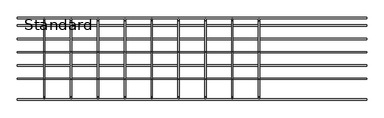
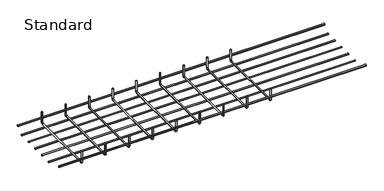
"""IFC4 building model written with IfcOpenShell, lengths in millimetres: cable carrier fitting geometry, CableTray_Atkore-Straight-Length : Standard."""

from ifc_helpers import new_model, si_unit, point, frame, frame_2d, origin, place, context, project, spatial, circle_curve, ellipse_curve, trimmed, segment, composite_curve, outline, extrude, source, transform, mapped, element, save
from ifc_brep_helpers import plane_surface, cylinder_surface, revolved_surface, advanced_brep


def standard_1d8058ac(model_context):
    return source(origin(), model_context, "Body", "SolidModel", [
        extrude(outline(composite_curve([segment(trimmed(circle_curve(frame_2d((73.4025, -25.9357812)), 2.54), [point((70.8625, -25.9357812))], [point((75.9425, -25.9357812))], False, "CARTESIAN"), True, "CONTINUOUS"), segment(trimmed(circle_curve(frame_2d((73.4025, -25.9357812)), 2.54), [point((75.9425, -25.9357812))], [point((70.8625, -25.9357812))], False, "CARTESIAN"), True, "CONTINUOUS")], self_intersect=False)), frame((0.0, 0.0, 0.0), z_axis=(1.0, 0.0, 0.0), x_axis=(0.0, 1.0, 0.0)), (0.0, 0.0, 1.0), 1285.8012927),
        extrude(outline(composite_curve([segment(trimmed(circle_curve(frame_2d((24.4675, -25.9357812)), 2.54), [point((21.9275, -25.9357812))], [point((27.0075, -25.9357812))], False, "CARTESIAN"), True, "CONTINUOUS"), segment(trimmed(circle_curve(frame_2d((24.4675, -25.9357812)), 2.54), [point((27.0075, -25.9357812))], [point((21.9275, -25.9357812))], False, "CARTESIAN"), True, "CONTINUOUS")], self_intersect=False)), frame((0.0, 0.0, 0.0), z_axis=(1.0, 0.0, 0.0), x_axis=(0.0, 1.0, 0.0)), (0.0, 0.0, 1.0), 1285.8012927),
        extrude(outline(composite_curve([segment(trimmed(circle_curve(frame_2d((-24.4675, -25.9357812)), 2.54), [point((-27.0075, -25.9357812))], [point((-21.9275, -25.9357812))], False, "CARTESIAN"), True, "CONTINUOUS"), segment(trimmed(circle_curve(frame_2d((-24.4675, -25.9357812)), 2.54), [point((-21.9275, -25.9357812))], [point((-27.0075, -25.9357812))], False, "CARTESIAN"), True, "CONTINUOUS")], self_intersect=False)), frame((0.0, 0.0, 0.0), z_axis=(1.0, 0.0, 0.0), x_axis=(0.0, 1.0, 0.0)), (0.0, 0.0, 1.0), 1285.8012927),
        extrude(outline(composite_curve([segment(trimmed(circle_curve(frame_2d((-73.4025, -25.9357812)), 2.54), [point((-75.9425, -25.9357812))], [point((-70.8625, -25.9357812))], False, "CARTESIAN"), True, "CONTINUOUS"), segment(trimmed(circle_curve(frame_2d((-73.4025, -25.9357812)), 2.54), [point((-70.8625, -25.9357812))], [point((-75.9425, -25.9357812))], False, "CARTESIAN"), True, "CONTINUOUS")], self_intersect=False)), frame((0.0, 0.0, 0.0), z_axis=(1.0, 0.0, 0.0), x_axis=(0.0, 1.0, 0.0)), (0.0, 0.0, 1.0), 1285.8012927),
        advanced_brep(
        [(96.3677917, -144.88, 28.4757813), (101.4477917, -144.88, 28.4757813), (96.3677917, -144.88, -14.8133594), (101.4477917, -144.88, -14.8133594), (101.4477917, -138.8375781, -20.8557812), (96.3677917, -138.8375781, -20.8557812), (96.3677917, 138.53, -20.8557812), (101.4477917, 138.53, -20.8557812), (101.4477917, 144.88, -14.5057812), (96.3677917, 144.88, -14.5057812), (96.3677917, 144.88, 28.4757813), (101.4477917, 144.88, 28.4757813)],
        [
            (0, 1, circle_curve(frame((98.9077917, -144.88, 28.4757813), z_axis=(0.0, 0.0, 1.0), x_axis=(1.0, 0.0, 0.0)), 2.54)),
            (1, 0, circle_curve(frame((98.9077917, -144.88, 28.4757813), z_axis=(0.0, 0.0, 1.0), x_axis=(1.0, 0.0, 0.0)), 2.54)),
            (0, 2),
            (2, 3, circle_curve(frame((98.9077917, -144.88, -14.8133594), z_axis=(0.0, 0.0, 1.0), x_axis=(1.0, 0.0, 0.0)), 2.54)),
            (3, 1),
            (3, 2, circle_curve(frame((98.9077917, -144.88, -14.8133594), z_axis=(0.0, 0.0, 1.0), x_axis=(1.0, 0.0, 0.0)), 2.54)),
            (4, 3, circle_curve(frame((101.4477917, -138.8375781, -14.8133594), z_axis=(-1.0, 0.0, 0.0), x_axis=(0.0, -1.0, 0.0)), 6.0424219)),
            (2, 5, circle_curve(frame((96.3677917, -138.8375781, -14.8133594), z_axis=(1.0, 0.0, 0.0), x_axis=(0.0, -1.0, 0.0)), 6.0424219)),
            (5, 4, circle_curve(frame((98.9077917, -138.8375781, -20.8557812), z_axis=(0.0, -1.0, 0.0), x_axis=(1.0, 0.0, 0.0)), 2.54)),
            (4, 5, circle_curve(frame((98.9077917, -138.8375781, -20.8557812), z_axis=(0.0, -1.0, 0.0), x_axis=(1.0, 0.0, 0.0)), 2.54)),
            (5, 6),
            (6, 7, circle_curve(frame((98.9077917, 138.53, -20.8557812), z_axis=(0.0, -1.0, 0.0), x_axis=(1.0, 0.0, 0.0)), 2.54)),
            (7, 4),
            (7, 6, circle_curve(frame((98.9077917, 138.53, -20.8557812), z_axis=(0.0, -1.0, 0.0), x_axis=(1.0, 0.0, 0.0)), 2.54)),
            (8, 7, circle_curve(frame((101.4477917, 138.53, -14.5057812), z_axis=(-1.0, 0.0, 0.0), x_axis=(0.0, 0.0, -1.0)), 6.35)),
            (6, 9, circle_curve(frame((96.3677917, 138.53, -14.5057812), z_axis=(1.0, 0.0, 0.0), x_axis=(0.0, 0.0, -1.0)), 6.35)),
            (9, 8, circle_curve(frame((98.9077917, 144.88, -14.5057812), z_axis=(0.0, 0.0, -1.0), x_axis=(1.0, 0.0, 0.0)), 2.54)),
            (8, 9, circle_curve(frame((98.9077917, 144.88, -14.5057812), z_axis=(0.0, 0.0, -1.0), x_axis=(1.0, 0.0, 0.0)), 2.54)),
            (10, 11, circle_curve(frame((98.9077917, 144.88, 28.4757813), z_axis=(0.0, 0.0, 1.0), x_axis=(1.0, 0.0, 0.0)), 2.54)),
            (11, 10, circle_curve(frame((98.9077917, 144.88, 28.4757813), z_axis=(0.0, 0.0, 1.0), x_axis=(1.0, 0.0, 0.0)), 2.54)),
            (9, 10),
            (11, 8),
        ],
        [
            plane_surface(frame((98.9077917, -144.88, 28.4757813), z_axis=(0.0, 0.0, 1.0), x_axis=(1.0, 0.0, 0.0))),
            cylinder_surface(frame((98.9077917, -144.88, 28.4757813), z_axis=(0.0, 0.0, 1.0), x_axis=(1.0, 0.0, 0.0)), 2.54),
            revolved_surface(trimmed(ellipse_curve(frame((98.9077917, -144.88, -14.8133594), z_axis=(0.0, 0.0, 1.0), x_axis=(1.0, 0.0, 0.0)), 2.54, 2.54), [point((96.3677917, -144.88, -14.8133594))], [point((101.4477917, -144.88, -14.8133594))], True, "CARTESIAN"), (98.9077917, -138.8375781, -14.8133594), (1.0, 0.0, 0.0)),
            revolved_surface(trimmed(ellipse_curve(frame((98.9077917, -144.88, -14.8133594), z_axis=(0.0, 0.0, 1.0), x_axis=(1.0, 0.0, 0.0)), 2.54, 2.54), [point((101.4477917, -144.88, -14.8133594))], [point((96.3677917, -144.88, -14.8133594))], True, "CARTESIAN"), (98.9077917, -138.8375781, -14.8133594), (1.0, 0.0, 0.0)),
            cylinder_surface(frame((98.9077917, -138.8375781, -20.8557812), z_axis=(0.0, -1.0, 0.0), x_axis=(1.0, 0.0, 0.0)), 2.54),
            revolved_surface(trimmed(ellipse_curve(frame((98.9077917, 138.53, -20.8557812), z_axis=(0.0, -1.0, 0.0), x_axis=(1.0, 0.0, 0.0)), 2.54, 2.54), [point((96.3677917, 138.53, -20.8557812))], [point((101.4477917, 138.53, -20.8557812))], True, "CARTESIAN"), (98.9077917, 138.53, -14.5057812), (1.0, 0.0, 0.0)),
            revolved_surface(trimmed(ellipse_curve(frame((98.9077917, 138.53, -20.8557812), z_axis=(0.0, -1.0, 0.0), x_axis=(1.0, 0.0, 0.0)), 2.54, 2.54), [point((101.4477917, 138.53, -20.8557812))], [point((96.3677917, 138.53, -20.8557812))], True, "CARTESIAN"), (98.9077917, 138.53, -14.5057812), (1.0, 0.0, 0.0)),
            plane_surface(frame((98.9077917, 144.88, 28.4757813), z_axis=(0.0, 0.0, 1.0), x_axis=(1.0, 0.0, 0.0))),
            cylinder_surface(frame((98.9077917, 144.88, -14.5057812), z_axis=(0.0, 0.0, -1.0), x_axis=(1.0, 0.0, 0.0)), 2.54),
        ],
        [
            (0, [[1, 2]]),
            (1, [[-1, 3, 4, 5]]),
            (1, [[-2, -5, 6, -3]]),
            (2, [[7, -4, 8, 9]]),
            (3, [[-8, -6, -7, 10]]),
            (4, [[-9, 11, 12, 13]]),
            (4, [[-10, -13, 14, -11]]),
            (5, [[15, -12, 16, 17]]),
            (6, [[-16, -14, -15, 18]]),
            (7, [[19, 20]]),
            (8, [[-17, 21, -20, 22]]),
            (8, [[-18, -22, -19, -21]]),
        ],
    ),
        advanced_brep(
        [(195.2755835, -144.88, 28.4757813), (200.3555835, -144.88, 28.4757813), (195.2755835, -144.88, -14.8133594), (200.3555835, -144.88, -14.8133594), (200.3555835, -138.8375781, -20.8557812), (195.2755835, -138.8375781, -20.8557812), (195.2755835, 138.53, -20.8557812), (200.3555835, 138.53, -20.8557812), (200.3555835, 144.88, -14.5057812), (195.2755835, 144.88, -14.5057812), (195.2755835, 144.88, 28.4757813), (200.3555835, 144.88, 28.4757813)],
        [
            (0, 1, circle_curve(frame((197.8155835, -144.88, 28.4757813), z_axis=(0.0, 0.0, 1.0), x_axis=(1.0, 0.0, 0.0)), 2.54)),
            (1, 0, circle_curve(frame((197.8155835, -144.88, 28.4757813), z_axis=(0.0, 0.0, 1.0), x_axis=(1.0, 0.0, 0.0)), 2.54)),
            (0, 2),
            (2, 3, circle_curve(frame((197.8155835, -144.88, -14.8133594), z_axis=(0.0, 0.0, 1.0), x_axis=(1.0, 0.0, 0.0)), 2.54)),
            (3, 1),
            (3, 2, circle_curve(frame((197.8155835, -144.88, -14.8133594), z_axis=(0.0, 0.0, 1.0), x_axis=(1.0, 0.0, 0.0)), 2.54)),
            (4, 3, circle_curve(frame((200.3555835, -138.8375781, -14.8133594), z_axis=(-1.0, 0.0, 0.0), x_axis=(0.0, -1.0, 0.0)), 6.0424219)),
            (2, 5, circle_curve(frame((195.2755835, -138.8375781, -14.8133594), z_axis=(1.0, 0.0, 0.0), x_axis=(0.0, -1.0, 0.0)), 6.0424219)),
            (5, 4, circle_curve(frame((197.8155835, -138.8375781, -20.8557812), z_axis=(0.0, -1.0, 0.0), x_axis=(1.0, 0.0, 0.0)), 2.54)),
            (4, 5, circle_curve(frame((197.8155835, -138.8375781, -20.8557812), z_axis=(0.0, -1.0, 0.0), x_axis=(1.0, 0.0, 0.0)), 2.54)),
            (5, 6),
            (6, 7, circle_curve(frame((197.8155835, 138.53, -20.8557812), z_axis=(0.0, -1.0, 0.0), x_axis=(1.0, 0.0, 0.0)), 2.54)),
            (7, 4),
            (7, 6, circle_curve(frame((197.8155835, 138.53, -20.8557812), z_axis=(0.0, -1.0, 0.0), x_axis=(1.0, 0.0, 0.0)), 2.54)),
            (8, 7, circle_curve(frame((200.3555835, 138.53, -14.5057812), z_axis=(-1.0, 0.0, 0.0), x_axis=(0.0, 0.0, -1.0)), 6.35)),
            (6, 9, circle_curve(frame((195.2755835, 138.53, -14.5057812), z_axis=(1.0, 0.0, 0.0), x_axis=(0.0, 0.0, -1.0)), 6.35)),
            (9, 8, circle_curve(frame((197.8155835, 144.88, -14.5057812), z_axis=(0.0, 0.0, -1.0), x_axis=(1.0, 0.0, 0.0)), 2.54)),
            (8, 9, circle_curve(frame((197.8155835, 144.88, -14.5057812), z_axis=(0.0, 0.0, -1.0), x_axis=(1.0, 0.0, 0.0)), 2.54)),
            (10, 11, circle_curve(frame((197.8155835, 144.88, 28.4757813), z_axis=(0.0, 0.0, 1.0), x_axis=(1.0, 0.0, 0.0)), 2.54)),
            (11, 10, circle_curve(frame((197.8155835, 144.88, 28.4757813), z_axis=(0.0, 0.0, 1.0), x_axis=(1.0, 0.0, 0.0)), 2.54)),
            (9, 10),
            (11, 8),
        ],
        [
            plane_surface(frame((197.8155835, -144.88, 28.4757813), z_axis=(0.0, 0.0, 1.0), x_axis=(1.0, 0.0, 0.0))),
            cylinder_surface(frame((197.8155835, -144.88, 28.4757813), z_axis=(0.0, 0.0, 1.0), x_axis=(1.0, 0.0, 0.0)), 2.54),
            revolved_surface(trimmed(ellipse_curve(frame((197.8155835, -144.88, -14.8133594), z_axis=(0.0, 0.0, 1.0), x_axis=(1.0, 0.0, 0.0)), 2.54, 2.54), [point((195.2755835, -144.88, -14.8133594))], [point((200.3555835, -144.88, -14.8133594))], True, "CARTESIAN"), (197.8155835, -138.8375781, -14.8133594), (1.0, 0.0, 0.0)),
            revolved_surface(trimmed(ellipse_curve(frame((197.8155835, -144.88, -14.8133594), z_axis=(0.0, 0.0, 1.0), x_axis=(1.0, 0.0, 0.0)), 2.54, 2.54), [point((200.3555835, -144.88, -14.8133594))], [point((195.2755835, -144.88, -14.8133594))], True, "CARTESIAN"), (197.8155835, -138.8375781, -14.8133594), (1.0, 0.0, 0.0)),
            cylinder_surface(frame((197.8155835, -138.8375781, -20.8557812), z_axis=(0.0, -1.0, 0.0), x_axis=(1.0, 0.0, 0.0)), 2.54),
            revolved_surface(trimmed(ellipse_curve(frame((197.8155835, 138.53, -20.8557812), z_axis=(0.0, -1.0, 0.0), x_axis=(1.0, 0.0, 0.0)), 2.54, 2.54), [point((195.2755835, 138.53, -20.8557812))], [point((200.3555835, 138.53, -20.8557812))], True, "CARTESIAN"), (197.8155835, 138.53, -14.5057812), (1.0, 0.0, 0.0)),
            revolved_surface(trimmed(ellipse_curve(frame((197.8155835, 138.53, -20.8557812), z_axis=(0.0, -1.0, 0.0), x_axis=(1.0, 0.0, 0.0)), 2.54, 2.54), [point((200.3555835, 138.53, -20.8557812))], [point((195.2755835, 138.53, -20.8557812))], True, "CARTESIAN"), (197.8155835, 138.53, -14.5057812), (1.0, 0.0, 0.0)),
            plane_surface(frame((197.8155835, 144.88, 28.4757813), z_axis=(0.0, 0.0, 1.0), x_axis=(1.0, 0.0, 0.0))),
            cylinder_surface(frame((197.8155835, 144.88, -14.5057812), z_axis=(0.0, 0.0, -1.0), x_axis=(1.0, 0.0, 0.0)), 2.54),
        ],
        [
            (0, [[1, 2]]),
            (1, [[-1, 3, 4, 5]]),
            (1, [[-2, -5, 6, -3]]),
            (2, [[7, -4, 8, 9]]),
            (3, [[-8, -6, -7, 10]]),
            (4, [[-9, 11, 12, 13]]),
            (4, [[-10, -13, 14, -11]]),
            (5, [[15, -12, 16, 17]]),
            (6, [[-16, -14, -15, 18]]),
            (7, [[19, 20]]),
            (8, [[-17, 21, -20, 22]]),
            (8, [[-18, -22, -19, -21]]),
        ],
    ),
        advanced_brep(
        [(294.1833752, -144.88, 28.4757813), (299.2633752, -144.88, 28.4757813), (294.1833752, -144.88, -14.8133594), (299.2633752, -144.88, -14.8133594), (299.2633752, -138.8375781, -20.8557812), (294.1833752, -138.8375781, -20.8557812), (294.1833752, 138.53, -20.8557812), (299.2633752, 138.53, -20.8557812), (299.2633752, 144.88, -14.5057812), (294.1833752, 144.88, -14.5057812), (294.1833752, 144.88, 28.4757813), (299.2633752, 144.88, 28.4757813)],
        [
            (0, 1, circle_curve(frame((296.7233752, -144.88, 28.4757813), z_axis=(0.0, 0.0, 1.0), x_axis=(1.0, 0.0, 0.0)), 2.54)),
            (1, 0, circle_curve(frame((296.7233752, -144.88, 28.4757813), z_axis=(0.0, 0.0, 1.0), x_axis=(1.0, 0.0, 0.0)), 2.54)),
            (0, 2),
            (2, 3, circle_curve(frame((296.7233752, -144.88, -14.8133594), z_axis=(0.0, 0.0, 1.0), x_axis=(1.0, 0.0, 0.0)), 2.54)),
            (3, 1),
            (3, 2, circle_curve(frame((296.7233752, -144.88, -14.8133594), z_axis=(0.0, 0.0, 1.0), x_axis=(1.0, 0.0, 0.0)), 2.54)),
            (4, 3, circle_curve(frame((299.2633752, -138.8375781, -14.8133594), z_axis=(-1.0, 0.0, 0.0), x_axis=(0.0, -1.0, 0.0)), 6.0424219)),
            (2, 5, circle_curve(frame((294.1833752, -138.8375781, -14.8133594), z_axis=(1.0, 0.0, 0.0), x_axis=(0.0, -1.0, 0.0)), 6.0424219)),
            (5, 4, circle_curve(frame((296.7233752, -138.8375781, -20.8557812), z_axis=(0.0, -1.0, 0.0), x_axis=(1.0, 0.0, 0.0)), 2.54)),
            (4, 5, circle_curve(frame((296.7233752, -138.8375781, -20.8557812), z_axis=(0.0, -1.0, 0.0), x_axis=(1.0, 0.0, 0.0)), 2.54)),
            (5, 6),
            (6, 7, circle_curve(frame((296.7233752, 138.53, -20.8557812), z_axis=(0.0, -1.0, 0.0), x_axis=(1.0, 0.0, 0.0)), 2.54)),
            (7, 4),
            (7, 6, circle_curve(frame((296.7233752, 138.53, -20.8557812), z_axis=(0.0, -1.0, 0.0), x_axis=(1.0, 0.0, 0.0)), 2.54)),
            (8, 7, circle_curve(frame((299.2633752, 138.53, -14.5057812), z_axis=(-1.0, 0.0, 0.0), x_axis=(0.0, 0.0, -1.0)), 6.35)),
            (6, 9, circle_curve(frame((294.1833752, 138.53, -14.5057812), z_axis=(1.0, 0.0, 0.0), x_axis=(0.0, 0.0, -1.0)), 6.35)),
            (9, 8, circle_curve(frame((296.7233752, 144.88, -14.5057812), z_axis=(0.0, 0.0, -1.0), x_axis=(1.0, 0.0, 0.0)), 2.54)),
            (8, 9, circle_curve(frame((296.7233752, 144.88, -14.5057812), z_axis=(0.0, 0.0, -1.0), x_axis=(1.0, 0.0, 0.0)), 2.54)),
            (10, 11, circle_curve(frame((296.7233752, 144.88, 28.4757813), z_axis=(0.0, 0.0, 1.0), x_axis=(1.0, 0.0, 0.0)), 2.54)),
            (11, 10, circle_curve(frame((296.7233752, 144.88, 28.4757813), z_axis=(0.0, 0.0, 1.0), x_axis=(1.0, 0.0, 0.0)), 2.54)),
            (9, 10),
            (11, 8),
        ],
        [
            plane_surface(frame((296.7233752, -144.88, 28.4757813), z_axis=(0.0, 0.0, 1.0), x_axis=(1.0, 0.0, 0.0))),
            cylinder_surface(frame((296.7233752, -144.88, 28.4757813), z_axis=(0.0, 0.0, 1.0), x_axis=(1.0, 0.0, 0.0)), 2.54),
            revolved_surface(trimmed(ellipse_curve(frame((296.7233752, -144.88, -14.8133594), z_axis=(0.0, 0.0, 1.0), x_axis=(1.0, 0.0, 0.0)), 2.54, 2.54), [point((294.1833752, -144.88, -14.8133594))], [point((299.2633752, -144.88, -14.8133594))], True, "CARTESIAN"), (296.7233752, -138.8375781, -14.8133594), (1.0, 0.0, 0.0)),
            revolved_surface(trimmed(ellipse_curve(frame((296.7233752, -144.88, -14.8133594), z_axis=(0.0, 0.0, 1.0), x_axis=(1.0, 0.0, 0.0)), 2.54, 2.54), [point((299.2633752, -144.88, -14.8133594))], [point((294.1833752, -144.88, -14.8133594))], True, "CARTESIAN"), (296.7233752, -138.8375781, -14.8133594), (1.0, 0.0, 0.0)),
            cylinder_surface(frame((296.7233752, -138.8375781, -20.8557812), z_axis=(0.0, -1.0, 0.0), x_axis=(1.0, 0.0, 0.0)), 2.54),
            revolved_surface(trimmed(ellipse_curve(frame((296.7233752, 138.53, -20.8557812), z_axis=(0.0, -1.0, 0.0), x_axis=(1.0, 0.0, 0.0)), 2.54, 2.54), [point((294.1833752, 138.53, -20.8557812))], [point((299.2633752, 138.53, -20.8557812))], True, "CARTESIAN"), (296.7233752, 138.53, -14.5057812), (1.0, 0.0, 0.0)),
            revolved_surface(trimmed(ellipse_curve(frame((296.7233752, 138.53, -20.8557812), z_axis=(0.0, -1.0, 0.0), x_axis=(1.0, 0.0, 0.0)), 2.54, 2.54), [point((299.2633752, 138.53, -20.8557812))], [point((294.1833752, 138.53, -20.8557812))], True, "CARTESIAN"), (296.7233752, 138.53, -14.5057812), (1.0, 0.0, 0.0)),
            plane_surface(frame((296.7233752, 144.88, 28.4757813), z_axis=(0.0, 0.0, 1.0), x_axis=(1.0, 0.0, 0.0))),
            cylinder_surface(frame((296.7233752, 144.88, -14.5057812), z_axis=(0.0, 0.0, -1.0), x_axis=(1.0, 0.0, 0.0)), 2.54),
        ],
        [
            (0, [[1, 2]]),
            (1, [[-1, 3, 4, 5]]),
            (1, [[-2, -5, 6, -3]]),
            (2, [[7, -4, 8, 9]]),
            (3, [[-8, -6, -7, 10]]),
            (4, [[-9, 11, 12, 13]]),
            (4, [[-10, -13, 14, -11]]),
            (5, [[15, -12, 16, 17]]),
            (6, [[-16, -14, -15, 18]]),
            (7, [[19, 20]]),
            (8, [[-17, 21, -20, 22]]),
            (8, [[-18, -22, -19, -21]]),
        ],
    ),
        advanced_brep(
        [(393.091167, -144.88, 28.4757813), (398.171167, -144.88, 28.4757813), (393.091167, -144.88, -14.8133594), (398.171167, -144.88, -14.8133594), (398.171167, -138.8375781, -20.8557812), (393.091167, -138.8375781, -20.8557812), (393.091167, 138.53, -20.8557812), (398.171167, 138.53, -20.8557812), (398.171167, 144.88, -14.5057812), (393.091167, 144.88, -14.5057812), (393.091167, 144.88, 28.4757813), (398.171167, 144.88, 28.4757813)],
        [
            (0, 1, circle_curve(frame((395.631167, -144.88, 28.4757813), z_axis=(0.0, 0.0, 1.0), x_axis=(1.0, 0.0, 0.0)), 2.54)),
            (1, 0, circle_curve(frame((395.631167, -144.88, 28.4757813), z_axis=(0.0, 0.0, 1.0), x_axis=(1.0, 0.0, 0.0)), 2.54)),
            (0, 2),
            (2, 3, circle_curve(frame((395.631167, -144.88, -14.8133594), z_axis=(0.0, 0.0, 1.0), x_axis=(1.0, 0.0, 0.0)), 2.54)),
            (3, 1),
            (3, 2, circle_curve(frame((395.631167, -144.88, -14.8133594), z_axis=(0.0, 0.0, 1.0), x_axis=(1.0, 0.0, 0.0)), 2.54)),
            (4, 3, circle_curve(frame((398.171167, -138.8375781, -14.8133594), z_axis=(-1.0, 0.0, 0.0), x_axis=(0.0, -1.0, 0.0)), 6.0424219)),
            (2, 5, circle_curve(frame((393.091167, -138.8375781, -14.8133594), z_axis=(1.0, 0.0, 0.0), x_axis=(0.0, -1.0, 0.0)), 6.0424219)),
            (5, 4, circle_curve(frame((395.631167, -138.8375781, -20.8557812), z_axis=(0.0, -1.0, 0.0), x_axis=(1.0, 0.0, 0.0)), 2.54)),
            (4, 5, circle_curve(frame((395.631167, -138.8375781, -20.8557812), z_axis=(0.0, -1.0, 0.0), x_axis=(1.0, 0.0, 0.0)), 2.54)),
            (5, 6),
            (6, 7, circle_curve(frame((395.631167, 138.53, -20.8557812), z_axis=(0.0, -1.0, 0.0), x_axis=(1.0, 0.0, 0.0)), 2.54)),
            (7, 4),
            (7, 6, circle_curve(frame((395.631167, 138.53, -20.8557812), z_axis=(0.0, -1.0, 0.0), x_axis=(1.0, 0.0, 0.0)), 2.54)),
            (8, 7, circle_curve(frame((398.171167, 138.53, -14.5057812), z_axis=(-1.0, 0.0, 0.0), x_axis=(0.0, 0.0, -1.0)), 6.35)),
            (6, 9, circle_curve(frame((393.091167, 138.53, -14.5057812), z_axis=(1.0, 0.0, 0.0), x_axis=(0.0, 0.0, -1.0)), 6.35)),
            (9, 8, circle_curve(frame((395.631167, 144.88, -14.5057812), z_axis=(0.0, 0.0, -1.0), x_axis=(1.0, 0.0, 0.0)), 2.54)),
            (8, 9, circle_curve(frame((395.631167, 144.88, -14.5057812), z_axis=(0.0, 0.0, -1.0), x_axis=(1.0, 0.0, 0.0)), 2.54)),
            (10, 11, circle_curve(frame((395.631167, 144.88, 28.4757813), z_axis=(0.0, 0.0, 1.0), x_axis=(1.0, 0.0, 0.0)), 2.54)),
            (11, 10, circle_curve(frame((395.631167, 144.88, 28.4757813), z_axis=(0.0, 0.0, 1.0), x_axis=(1.0, 0.0, 0.0)), 2.54)),
            (9, 10),
            (11, 8),
        ],
        [
            plane_surface(frame((395.631167, -144.88, 28.4757813), z_axis=(0.0, 0.0, 1.0), x_axis=(1.0, 0.0, 0.0))),
            cylinder_surface(frame((395.631167, -144.88, 28.4757813), z_axis=(0.0, 0.0, 1.0), x_axis=(1.0, 0.0, 0.0)), 2.54),
            revolved_surface(trimmed(ellipse_curve(frame((395.631167, -144.88, -14.8133594), z_axis=(0.0, 0.0, 1.0), x_axis=(1.0, 0.0, 0.0)), 2.54, 2.54), [point((393.091167, -144.88, -14.8133594))], [point((398.171167, -144.88, -14.8133594))], True, "CARTESIAN"), (395.631167, -138.8375781, -14.8133594), (1.0, 0.0, 0.0)),
            revolved_surface(trimmed(ellipse_curve(frame((395.631167, -144.88, -14.8133594), z_axis=(0.0, 0.0, 1.0), x_axis=(1.0, 0.0, 0.0)), 2.54, 2.54), [point((398.171167, -144.88, -14.8133594))], [point((393.091167, -144.88, -14.8133594))], True, "CARTESIAN"), (395.631167, -138.8375781, -14.8133594), (1.0, 0.0, 0.0)),
            cylinder_surface(frame((395.631167, -138.8375781, -20.8557812), z_axis=(0.0, -1.0, 0.0), x_axis=(1.0, 0.0, 0.0)), 2.54),
            revolved_surface(trimmed(ellipse_curve(frame((395.631167, 138.53, -20.8557812), z_axis=(0.0, -1.0, 0.0), x_axis=(1.0, 0.0, 0.0)), 2.54, 2.54), [point((393.091167, 138.53, -20.8557812))], [point((398.171167, 138.53, -20.8557812))], True, "CARTESIAN"), (395.631167, 138.53, -14.5057812), (1.0, 0.0, 0.0)),
            revolved_surface(trimmed(ellipse_curve(frame((395.631167, 138.53, -20.8557812), z_axis=(0.0, -1.0, 0.0), x_axis=(1.0, 0.0, 0.0)), 2.54, 2.54), [point((398.171167, 138.53, -20.8557812))], [point((393.091167, 138.53, -20.8557812))], True, "CARTESIAN"), (395.631167, 138.53, -14.5057812), (1.0, 0.0, 0.0)),
            plane_surface(frame((395.631167, 144.88, 28.4757813), z_axis=(0.0, 0.0, 1.0), x_axis=(1.0, 0.0, 0.0))),
            cylinder_surface(frame((395.631167, 144.88, -14.5057812), z_axis=(0.0, 0.0, -1.0), x_axis=(1.0, 0.0, 0.0)), 2.54),
        ],
        [
            (0, [[1, 2]]),
            (1, [[-1, 3, 4, 5]]),
            (1, [[-2, -5, 6, -3]]),
            (2, [[7, -4, 8, 9]]),
            (3, [[-8, -6, -7, 10]]),
            (4, [[-9, 11, 12, 13]]),
            (4, [[-10, -13, 14, -11]]),
            (5, [[15, -12, 16, 17]]),
            (6, [[-16, -14, -15, 18]]),
            (7, [[19, 20]]),
            (8, [[-17, 21, -20, 22]]),
            (8, [[-18, -22, -19, -21]]),
        ],
    ),
        advanced_brep(
        [(491.9989587, -144.88, 28.4757813), (497.0789587, -144.88, 28.4757813), (491.9989587, -144.88, -14.8133594), (497.0789587, -144.88, -14.8133594), (497.0789587, -138.8375781, -20.8557812), (491.9989587, -138.8375781, -20.8557812), (491.9989587, 138.53, -20.8557812), (497.0789587, 138.53, -20.8557812), (497.0789587, 144.88, -14.5057812), (491.9989587, 144.88, -14.5057812), (491.9989587, 144.88, 28.4757813), (497.0789587, 144.88, 28.4757813)],
        [
            (0, 1, circle_curve(frame((494.5389587, -144.88, 28.4757813), z_axis=(0.0, 0.0, 1.0), x_axis=(1.0, 0.0, 0.0)), 2.54)),
            (1, 0, circle_curve(frame((494.5389587, -144.88, 28.4757813), z_axis=(0.0, 0.0, 1.0), x_axis=(1.0, 0.0, 0.0)), 2.54)),
            (0, 2),
            (2, 3, circle_curve(frame((494.5389587, -144.88, -14.8133594), z_axis=(0.0, 0.0, 1.0), x_axis=(1.0, 0.0, 0.0)), 2.54)),
            (3, 1),
            (3, 2, circle_curve(frame((494.5389587, -144.88, -14.8133594), z_axis=(0.0, 0.0, 1.0), x_axis=(1.0, 0.0, 0.0)), 2.54)),
            (4, 3, circle_curve(frame((497.0789587, -138.8375781, -14.8133594), z_axis=(-1.0, 0.0, 0.0), x_axis=(0.0, -1.0, 0.0)), 6.0424219)),
            (2, 5, circle_curve(frame((491.9989587, -138.8375781, -14.8133594), z_axis=(1.0, 0.0, 0.0), x_axis=(0.0, -1.0, 0.0)), 6.0424219)),
            (5, 4, circle_curve(frame((494.5389587, -138.8375781, -20.8557812), z_axis=(0.0, -1.0, 0.0), x_axis=(1.0, 0.0, 0.0)), 2.54)),
            (4, 5, circle_curve(frame((494.5389587, -138.8375781, -20.8557812), z_axis=(0.0, -1.0, 0.0), x_axis=(1.0, 0.0, 0.0)), 2.54)),
            (5, 6),
            (6, 7, circle_curve(frame((494.5389587, 138.53, -20.8557812), z_axis=(0.0, -1.0, 0.0), x_axis=(1.0, 0.0, 0.0)), 2.54)),
            (7, 4),
            (7, 6, circle_curve(frame((494.5389587, 138.53, -20.8557812), z_axis=(0.0, -1.0, 0.0), x_axis=(1.0, 0.0, 0.0)), 2.54)),
            (8, 7, circle_curve(frame((497.0789587, 138.53, -14.5057812), z_axis=(-1.0, 0.0, 0.0), x_axis=(0.0, 0.0, -1.0)), 6.35)),
            (6, 9, circle_curve(frame((491.9989587, 138.53, -14.5057812), z_axis=(1.0, 0.0, 0.0), x_axis=(0.0, 0.0, -1.0)), 6.35)),
            (9, 8, circle_curve(frame((494.5389587, 144.88, -14.5057812), z_axis=(0.0, 0.0, -1.0), x_axis=(1.0, 0.0, 0.0)), 2.54)),
            (8, 9, circle_curve(frame((494.5389587, 144.88, -14.5057812), z_axis=(0.0, 0.0, -1.0), x_axis=(1.0, 0.0, 0.0)), 2.54)),
            (10, 11, circle_curve(frame((494.5389587, 144.88, 28.4757813), z_axis=(0.0, 0.0, 1.0), x_axis=(1.0, 0.0, 0.0)), 2.54)),
            (11, 10, circle_curve(frame((494.5389587, 144.88, 28.4757813), z_axis=(0.0, 0.0, 1.0), x_axis=(1.0, 0.0, 0.0)), 2.54)),
            (9, 10),
            (11, 8),
        ],
        [
            plane_surface(frame((494.5389587, -144.88, 28.4757813), z_axis=(0.0, 0.0, 1.0), x_axis=(1.0, 0.0, 0.0))),
            cylinder_surface(frame((494.5389587, -144.88, 28.4757813), z_axis=(0.0, 0.0, 1.0), x_axis=(1.0, 0.0, 0.0)), 2.54),
            revolved_surface(trimmed(ellipse_curve(frame((494.5389587, -144.88, -14.8133594), z_axis=(0.0, 0.0, 1.0), x_axis=(1.0, 0.0, 0.0)), 2.54, 2.54), [point((491.9989587, -144.88, -14.8133594))], [point((497.0789587, -144.88, -14.8133594))], True, "CARTESIAN"), (494.5389587, -138.8375781, -14.8133594), (1.0, 0.0, 0.0)),
            revolved_surface(trimmed(ellipse_curve(frame((494.5389587, -144.88, -14.8133594), z_axis=(0.0, 0.0, 1.0), x_axis=(1.0, 0.0, 0.0)), 2.54, 2.54), [point((497.0789587, -144.88, -14.8133594))], [point((491.9989587, -144.88, -14.8133594))], True, "CARTESIAN"), (494.5389587, -138.8375781, -14.8133594), (1.0, 0.0, 0.0)),
            cylinder_surface(frame((494.5389587, -138.8375781, -20.8557812), z_axis=(0.0, -1.0, 0.0), x_axis=(1.0, 0.0, 0.0)), 2.54),
            revolved_surface(trimmed(ellipse_curve(frame((494.5389587, 138.53, -20.8557812), z_axis=(0.0, -1.0, 0.0), x_axis=(1.0, 0.0, 0.0)), 2.54, 2.54), [point((491.9989587, 138.53, -20.8557812))], [point((497.0789587, 138.53, -20.8557812))], True, "CARTESIAN"), (494.5389587, 138.53, -14.5057812), (1.0, 0.0, 0.0)),
            revolved_surface(trimmed(ellipse_curve(frame((494.5389587, 138.53, -20.8557812), z_axis=(0.0, -1.0, 0.0), x_axis=(1.0, 0.0, 0.0)), 2.54, 2.54), [point((497.0789587, 138.53, -20.8557812))], [point((491.9989587, 138.53, -20.8557812))], True, "CARTESIAN"), (494.5389587, 138.53, -14.5057812), (1.0, 0.0, 0.0)),
            plane_surface(frame((494.5389587, 144.88, 28.4757813), z_axis=(0.0, 0.0, 1.0), x_axis=(1.0, 0.0, 0.0))),
            cylinder_surface(frame((494.5389587, 144.88, -14.5057812), z_axis=(0.0, 0.0, -1.0), x_axis=(1.0, 0.0, 0.0)), 2.54),
        ],
        [
            (0, [[1, 2]]),
            (1, [[-1, 3, 4, 5]]),
            (1, [[-2, -5, 6, -3]]),
            (2, [[7, -4, 8, 9]]),
            (3, [[-8, -6, -7, 10]]),
            (4, [[-9, 11, 12, 13]]),
            (4, [[-10, -13, 14, -11]]),
            (5, [[15, -12, 16, 17]]),
            (6, [[-16, -14, -15, 18]]),
            (7, [[19, 20]]),
            (8, [[-17, 21, -20, 22]]),
            (8, [[-18, -22, -19, -21]]),
        ],
    ),
        advanced_brep(
        [(590.9067505, -144.88, 28.4757813), (595.9867505, -144.88, 28.4757813), (590.9067505, -144.88, -14.8133594), (595.9867505, -144.88, -14.8133594), (595.9867505, -138.8375781, -20.8557812), (590.9067505, -138.8375781, -20.8557812), (590.9067505, 138.53, -20.8557812), (595.9867505, 138.53, -20.8557812), (595.9867505, 144.88, -14.5057812), (590.9067505, 144.88, -14.5057812), (590.9067505, 144.88, 28.4757813), (595.9867505, 144.88, 28.4757813)],
        [
            (0, 1, circle_curve(frame((593.4467505, -144.88, 28.4757813), z_axis=(0.0, 0.0, 1.0), x_axis=(1.0, 0.0, 0.0)), 2.54)),
            (1, 0, circle_curve(frame((593.4467505, -144.88, 28.4757813), z_axis=(0.0, 0.0, 1.0), x_axis=(1.0, 0.0, 0.0)), 2.54)),
            (0, 2),
            (2, 3, circle_curve(frame((593.4467505, -144.88, -14.8133594), z_axis=(0.0, 0.0, 1.0), x_axis=(1.0, 0.0, 0.0)), 2.54)),
            (3, 1),
            (3, 2, circle_curve(frame((593.4467505, -144.88, -14.8133594), z_axis=(0.0, 0.0, 1.0), x_axis=(1.0, 0.0, 0.0)), 2.54)),
            (4, 3, circle_curve(frame((595.9867505, -138.8375781, -14.8133594), z_axis=(-1.0, 0.0, 0.0), x_axis=(0.0, -1.0, 0.0)), 6.0424219)),
            (2, 5, circle_curve(frame((590.9067505, -138.8375781, -14.8133594), z_axis=(1.0, 0.0, 0.0), x_axis=(0.0, -1.0, 0.0)), 6.0424219)),
            (5, 4, circle_curve(frame((593.4467505, -138.8375781, -20.8557812), z_axis=(0.0, -1.0, 0.0), x_axis=(1.0, 0.0, 0.0)), 2.54)),
            (4, 5, circle_curve(frame((593.4467505, -138.8375781, -20.8557812), z_axis=(0.0, -1.0, 0.0), x_axis=(1.0, 0.0, 0.0)), 2.54)),
            (5, 6),
            (6, 7, circle_curve(frame((593.4467505, 138.53, -20.8557812), z_axis=(0.0, -1.0, 0.0), x_axis=(1.0, 0.0, 0.0)), 2.54)),
            (7, 4),
            (7, 6, circle_curve(frame((593.4467505, 138.53, -20.8557812), z_axis=(0.0, -1.0, 0.0), x_axis=(1.0, 0.0, 0.0)), 2.54)),
            (8, 7, circle_curve(frame((595.9867505, 138.53, -14.5057812), z_axis=(-1.0, 0.0, 0.0), x_axis=(0.0, 0.0, -1.0)), 6.35)),
            (6, 9, circle_curve(frame((590.9067505, 138.53, -14.5057812), z_axis=(1.0, 0.0, 0.0), x_axis=(0.0, 0.0, -1.0)), 6.35)),
            (9, 8, circle_curve(frame((593.4467505, 144.88, -14.5057812), z_axis=(0.0, 0.0, -1.0), x_axis=(1.0, 0.0, 0.0)), 2.54)),
            (8, 9, circle_curve(frame((593.4467505, 144.88, -14.5057812), z_axis=(0.0, 0.0, -1.0), x_axis=(1.0, 0.0, 0.0)), 2.54)),
            (10, 11, circle_curve(frame((593.4467505, 144.88, 28.4757813), z_axis=(0.0, 0.0, 1.0), x_axis=(1.0, 0.0, 0.0)), 2.54)),
            (11, 10, circle_curve(frame((593.4467505, 144.88, 28.4757813), z_axis=(0.0, 0.0, 1.0), x_axis=(1.0, 0.0, 0.0)), 2.54)),
            (9, 10),
            (11, 8),
        ],
        [
            plane_surface(frame((593.4467505, -144.88, 28.4757813), z_axis=(0.0, 0.0, 1.0), x_axis=(1.0, 0.0, 0.0))),
            cylinder_surface(frame((593.4467505, -144.88, 28.4757813), z_axis=(0.0, 0.0, 1.0), x_axis=(1.0, 0.0, 0.0)), 2.54),
            revolved_surface(trimmed(ellipse_curve(frame((593.4467505, -144.88, -14.8133594), z_axis=(0.0, 0.0, 1.0), x_axis=(1.0, 0.0, 0.0)), 2.54, 2.54), [point((590.9067505, -144.88, -14.8133594))], [point((595.9867505, -144.88, -14.8133594))], True, "CARTESIAN"), (593.4467505, -138.8375781, -14.8133594), (1.0, 0.0, 0.0)),
            revolved_surface(trimmed(ellipse_curve(frame((593.4467505, -144.88, -14.8133594), z_axis=(0.0, 0.0, 1.0), x_axis=(1.0, 0.0, 0.0)), 2.54, 2.54), [point((595.9867505, -144.88, -14.8133594))], [point((590.9067505, -144.88, -14.8133594))], True, "CARTESIAN"), (593.4467505, -138.8375781, -14.8133594), (1.0, 0.0, 0.0)),
            cylinder_surface(frame((593.4467505, -138.8375781, -20.8557812), z_axis=(0.0, -1.0, 0.0), x_axis=(1.0, 0.0, 0.0)), 2.54),
            revolved_surface(trimmed(ellipse_curve(frame((593.4467505, 138.53, -20.8557812), z_axis=(0.0, -1.0, 0.0), x_axis=(1.0, 0.0, 0.0)), 2.54, 2.54), [point((590.9067505, 138.53, -20.8557812))], [point((595.9867505, 138.53, -20.8557812))], True, "CARTESIAN"), (593.4467505, 138.53, -14.5057812), (1.0, 0.0, 0.0)),
            revolved_surface(trimmed(ellipse_curve(frame((593.4467505, 138.53, -20.8557812), z_axis=(0.0, -1.0, 0.0), x_axis=(1.0, 0.0, 0.0)), 2.54, 2.54), [point((595.9867505, 138.53, -20.8557812))], [point((590.9067505, 138.53, -20.8557812))], True, "CARTESIAN"), (593.4467505, 138.53, -14.5057812), (1.0, 0.0, 0.0)),
            plane_surface(frame((593.4467505, 144.88, 28.4757813), z_axis=(0.0, 0.0, 1.0), x_axis=(1.0, 0.0, 0.0))),
            cylinder_surface(frame((593.4467505, 144.88, -14.5057812), z_axis=(0.0, 0.0, -1.0), x_axis=(1.0, 0.0, 0.0)), 2.54),
        ],
        [
            (0, [[1, 2]]),
            (1, [[-1, 3, 4, 5]]),
            (1, [[-2, -5, 6, -3]]),
            (2, [[7, -4, 8, 9]]),
            (3, [[-8, -6, -7, 10]]),
            (4, [[-9, 11, 12, 13]]),
            (4, [[-10, -13, 14, -11]]),
            (5, [[15, -12, 16, 17]]),
            (6, [[-16, -14, -15, 18]]),
            (7, [[19, 20]]),
            (8, [[-17, 21, -20, 22]]),
            (8, [[-18, -22, -19, -21]]),
        ],
    ),
        advanced_brep(
        [(689.8145422, -144.88, 28.4757813), (694.8945422, -144.88, 28.4757813), (689.8145422, -144.88, -14.8133594), (694.8945422, -144.88, -14.8133594), (694.8945422, -138.8375781, -20.8557812), (689.8145422, -138.8375781, -20.8557812), (689.8145422, 138.53, -20.8557812), (694.8945422, 138.53, -20.8557812), (694.8945422, 144.88, -14.5057812), (689.8145422, 144.88, -14.5057812), (689.8145422, 144.88, 28.4757813), (694.8945422, 144.88, 28.4757813)],
        [
            (0, 1, circle_curve(frame((692.3545422, -144.88, 28.4757813), z_axis=(0.0, 0.0, 1.0), x_axis=(1.0, 0.0, 0.0)), 2.54)),
            (1, 0, circle_curve(frame((692.3545422, -144.88, 28.4757813), z_axis=(0.0, 0.0, 1.0), x_axis=(1.0, 0.0, 0.0)), 2.54)),
            (0, 2),
            (2, 3, circle_curve(frame((692.3545422, -144.88, -14.8133594), z_axis=(0.0, 0.0, 1.0), x_axis=(1.0, 0.0, 0.0)), 2.54)),
            (3, 1),
            (3, 2, circle_curve(frame((692.3545422, -144.88, -14.8133594), z_axis=(0.0, 0.0, 1.0), x_axis=(1.0, 0.0, 0.0)), 2.54)),
            (4, 3, circle_curve(frame((694.8945422, -138.8375781, -14.8133594), z_axis=(-1.0, 0.0, 0.0), x_axis=(0.0, -1.0, 0.0)), 6.0424219)),
            (2, 5, circle_curve(frame((689.8145422, -138.8375781, -14.8133594), z_axis=(1.0, 0.0, 0.0), x_axis=(0.0, -1.0, 0.0)), 6.0424219)),
            (5, 4, circle_curve(frame((692.3545422, -138.8375781, -20.8557812), z_axis=(0.0, -1.0, 0.0), x_axis=(1.0, 0.0, 0.0)), 2.54)),
            (4, 5, circle_curve(frame((692.3545422, -138.8375781, -20.8557812), z_axis=(0.0, -1.0, 0.0), x_axis=(1.0, 0.0, 0.0)), 2.54)),
            (5, 6),
            (6, 7, circle_curve(frame((692.3545422, 138.53, -20.8557812), z_axis=(0.0, -1.0, 0.0), x_axis=(1.0, 0.0, 0.0)), 2.54)),
            (7, 4),
            (7, 6, circle_curve(frame((692.3545422, 138.53, -20.8557812), z_axis=(0.0, -1.0, 0.0), x_axis=(1.0, 0.0, 0.0)), 2.54)),
            (8, 7, circle_curve(frame((694.8945422, 138.53, -14.5057812), z_axis=(-1.0, 0.0, 0.0), x_axis=(0.0, 0.0, -1.0)), 6.35)),
            (6, 9, circle_curve(frame((689.8145422, 138.53, -14.5057812), z_axis=(1.0, 0.0, 0.0), x_axis=(0.0, 0.0, -1.0)), 6.35)),
            (9, 8, circle_curve(frame((692.3545422, 144.88, -14.5057812), z_axis=(0.0, 0.0, -1.0), x_axis=(1.0, 0.0, 0.0)), 2.54)),
            (8, 9, circle_curve(frame((692.3545422, 144.88, -14.5057812), z_axis=(0.0, 0.0, -1.0), x_axis=(1.0, 0.0, 0.0)), 2.54)),
            (10, 11, circle_curve(frame((692.3545422, 144.88, 28.4757813), z_axis=(0.0, 0.0, 1.0), x_axis=(1.0, 0.0, 0.0)), 2.54)),
            (11, 10, circle_curve(frame((692.3545422, 144.88, 28.4757813), z_axis=(0.0, 0.0, 1.0), x_axis=(1.0, 0.0, 0.0)), 2.54)),
            (9, 10),
            (11, 8),
        ],
        [
            plane_surface(frame((692.3545422, -144.88, 28.4757813), z_axis=(0.0, 0.0, 1.0), x_axis=(1.0, 0.0, 0.0))),
            cylinder_surface(frame((692.3545422, -144.88, 28.4757813), z_axis=(0.0, 0.0, 1.0), x_axis=(1.0, 0.0, 0.0)), 2.54),
            revolved_surface(trimmed(ellipse_curve(frame((692.3545422, -144.88, -14.8133594), z_axis=(0.0, 0.0, 1.0), x_axis=(1.0, 0.0, 0.0)), 2.54, 2.54), [point((689.8145422, -144.88, -14.8133594))], [point((694.8945422, -144.88, -14.8133594))], True, "CARTESIAN"), (692.3545422, -138.8375781, -14.8133594), (1.0, 0.0, 0.0)),
            revolved_surface(trimmed(ellipse_curve(frame((692.3545422, -144.88, -14.8133594), z_axis=(0.0, 0.0, 1.0), x_axis=(1.0, 0.0, 0.0)), 2.54, 2.54), [point((694.8945422, -144.88, -14.8133594))], [point((689.8145422, -144.88, -14.8133594))], True, "CARTESIAN"), (692.3545422, -138.8375781, -14.8133594), (1.0, 0.0, 0.0)),
            cylinder_surface(frame((692.3545422, -138.8375781, -20.8557812), z_axis=(0.0, -1.0, 0.0), x_axis=(1.0, 0.0, 0.0)), 2.54),
            revolved_surface(trimmed(ellipse_curve(frame((692.3545422, 138.53, -20.8557812), z_axis=(0.0, -1.0, 0.0), x_axis=(1.0, 0.0, 0.0)), 2.54, 2.54), [point((689.8145422, 138.53, -20.8557812))], [point((694.8945422, 138.53, -20.8557812))], True, "CARTESIAN"), (692.3545422, 138.53, -14.5057812), (1.0, 0.0, 0.0)),
            revolved_surface(trimmed(ellipse_curve(frame((692.3545422, 138.53, -20.8557812), z_axis=(0.0, -1.0, 0.0), x_axis=(1.0, 0.0, 0.0)), 2.54, 2.54), [point((694.8945422, 138.53, -20.8557812))], [point((689.8145422, 138.53, -20.8557812))], True, "CARTESIAN"), (692.3545422, 138.53, -14.5057812), (1.0, 0.0, 0.0)),
            plane_surface(frame((692.3545422, 144.88, 28.4757813), z_axis=(0.0, 0.0, 1.0), x_axis=(1.0, 0.0, 0.0))),
            cylinder_surface(frame((692.3545422, 144.88, -14.5057812), z_axis=(0.0, 0.0, -1.0), x_axis=(1.0, 0.0, 0.0)), 2.54),
        ],
        [
            (0, [[1, 2]]),
            (1, [[-1, 3, 4, 5]]),
            (1, [[-2, -5, 6, -3]]),
            (2, [[7, -4, 8, 9]]),
            (3, [[-8, -6, -7, 10]]),
            (4, [[-9, 11, 12, 13]]),
            (4, [[-10, -13, 14, -11]]),
            (5, [[15, -12, 16, 17]]),
            (6, [[-16, -14, -15, 18]]),
            (7, [[19, 20]]),
            (8, [[-17, 21, -20, 22]]),
            (8, [[-18, -22, -19, -21]]),
        ],
    ),
        extrude(outline(composite_curve([segment(trimmed(circle_curve(frame_2d((149.96, 0.681454)), 2.54), [point((152.5, 0.681454))], [point((147.42, 0.681454))], False, "CARTESIAN"), True, "CONTINUOUS"), segment(trimmed(circle_curve(frame_2d((149.96, 0.681454)), 2.54), [point((147.42, 0.681454))], [point((152.5, 0.681454))], False, "CARTESIAN"), True, "CONTINUOUS")], self_intersect=False)), frame((0.0, 0.0, 0.0), z_axis=(1.0, 0.0, 0.0), x_axis=(0.0, 1.0, 0.0)), (0.0, 0.0, 1.0), 1285.8012927),
        extrude(outline(composite_curve([segment(trimmed(circle_curve(frame_2d((149.96, -1.0517187)), 2.54), [point((152.5, -1.0517187))], [point((147.42, -1.0517187))], False, "CARTESIAN"), True, "CONTINUOUS"), segment(trimmed(circle_curve(frame_2d((149.96, -1.0517187)), 2.54), [point((147.42, -1.0517187))], [point((152.5, -1.0517187))], False, "CARTESIAN"), True, "CONTINUOUS")], self_intersect=False)), frame((0.0, 0.0, 0.0), z_axis=(1.0, 0.0, 0.0), x_axis=(0.0, 1.0, 0.0)), (0.0, 0.0, 1.0), 1285.8012927),
        extrude(outline(composite_curve([segment(trimmed(circle_curve(frame_2d((-149.96, -1.0517187)), 2.54), [point((-152.5, -1.0517187))], [point((-147.42, -1.0517187))], False, "CARTESIAN"), True, "CONTINUOUS"), segment(trimmed(circle_curve(frame_2d((-149.96, -1.0517187)), 2.54), [point((-147.42, -1.0517187))], [point((-152.5, -1.0517187))], False, "CARTESIAN"), True, "CONTINUOUS")], self_intersect=False)), frame((0.0, 0.0, 0.0), z_axis=(1.0, 0.0, 0.0), x_axis=(0.0, 1.0, 0.0)), (0.0, 0.0, 1.0), 1285.8012927),
        extrude(outline(composite_curve([segment(trimmed(circle_curve(frame_2d((-149.96, 0.681454)), 2.54), [point((-152.5, 0.681454))], [point((-147.42, 0.681454))], False, "CARTESIAN"), True, "CONTINUOUS"), segment(trimmed(circle_curve(frame_2d((-149.96, 0.681454)), 2.54), [point((-147.42, 0.681454))], [point((-152.5, 0.681454))], False, "CARTESIAN"), True, "CONTINUOUS")], self_intersect=False)), frame((0.0, 0.0, 0.0), z_axis=(1.0, 0.0, 0.0), x_axis=(0.0, 1.0, 0.0)), (0.0, 0.0, 1.0), 1285.8012927),
        extrude(outline(composite_curve([segment(trimmed(circle_curve(frame_2d((122.3375, -25.9357812)), 2.54), [point((119.7975, -25.9357812))], [point((124.8775, -25.9357812))], False, "CARTESIAN"), True, "CONTINUOUS"), segment(trimmed(circle_curve(frame_2d((122.3375, -25.9357812)), 2.54), [point((124.8775, -25.9357812))], [point((119.7975, -25.9357812))], False, "CARTESIAN"), True, "CONTINUOUS")], self_intersect=False)), frame((0.0, 0.0, 0.0), z_axis=(1.0, 0.0, 0.0), x_axis=(0.0, 1.0, 0.0)), (0.0, 0.0, 1.0), 1285.8012927),
        advanced_brep(
        [(788.722334, -144.88, 28.4757813), (793.802334, -144.88, 28.4757813), (788.722334, -144.88, -14.8133594), (793.802334, -144.88, -14.8133594), (793.802334, -138.8375781, -20.8557812), (788.722334, -138.8375781, -20.8557812), (788.722334, 138.53, -20.8557812), (793.802334, 138.53, -20.8557812), (793.802334, 144.88, -14.5057812), (788.722334, 144.88, -14.5057812), (788.722334, 144.88, 28.4757813), (793.802334, 144.88, 28.4757813)],
        [
            (0, 1, circle_curve(frame((791.262334, -144.88, 28.4757813), z_axis=(0.0, 0.0, 1.0), x_axis=(1.0, 0.0, 0.0)), 2.54)),
            (1, 0, circle_curve(frame((791.262334, -144.88, 28.4757813), z_axis=(0.0, 0.0, 1.0), x_axis=(1.0, 0.0, 0.0)), 2.54)),
            (0, 2),
            (2, 3, circle_curve(frame((791.262334, -144.88, -14.8133594), z_axis=(0.0, 0.0, 1.0), x_axis=(1.0, 0.0, 0.0)), 2.54)),
            (3, 1),
            (3, 2, circle_curve(frame((791.262334, -144.88, -14.8133594), z_axis=(0.0, 0.0, 1.0), x_axis=(1.0, 0.0, 0.0)), 2.54)),
            (4, 3, circle_curve(frame((793.802334, -138.8375781, -14.8133594), z_axis=(-1.0, 0.0, 0.0), x_axis=(0.0, -1.0, 0.0)), 6.0424219)),
            (2, 5, circle_curve(frame((788.722334, -138.8375781, -14.8133594), z_axis=(1.0, 0.0, 0.0), x_axis=(0.0, -1.0, 0.0)), 6.0424219)),
            (5, 4, circle_curve(frame((791.262334, -138.8375781, -20.8557812), z_axis=(0.0, -1.0, 0.0), x_axis=(1.0, 0.0, 0.0)), 2.54)),
            (4, 5, circle_curve(frame((791.262334, -138.8375781, -20.8557812), z_axis=(0.0, -1.0, 0.0), x_axis=(1.0, 0.0, 0.0)), 2.54)),
            (5, 6),
            (6, 7, circle_curve(frame((791.262334, 138.53, -20.8557812), z_axis=(0.0, -1.0, 0.0), x_axis=(1.0, 0.0, 0.0)), 2.54)),
            (7, 4),
            (7, 6, circle_curve(frame((791.262334, 138.53, -20.8557812), z_axis=(0.0, -1.0, 0.0), x_axis=(1.0, 0.0, 0.0)), 2.54)),
            (8, 7, circle_curve(frame((793.802334, 138.53, -14.5057812), z_axis=(-1.0, 0.0, 0.0), x_axis=(0.0, 0.0, -1.0)), 6.35)),
            (6, 9, circle_curve(frame((788.722334, 138.53, -14.5057812), z_axis=(1.0, 0.0, 0.0), x_axis=(0.0, 0.0, -1.0)), 6.35)),
            (9, 8, circle_curve(frame((791.262334, 144.88, -14.5057812), z_axis=(0.0, 0.0, -1.0), x_axis=(1.0, 0.0, 0.0)), 2.54)),
            (8, 9, circle_curve(frame((791.262334, 144.88, -14.5057812), z_axis=(0.0, 0.0, -1.0), x_axis=(1.0, 0.0, 0.0)), 2.54)),
            (10, 11, circle_curve(frame((791.262334, 144.88, 28.4757813), z_axis=(0.0, 0.0, 1.0), x_axis=(1.0, 0.0, 0.0)), 2.54)),
            (11, 10, circle_curve(frame((791.262334, 144.88, 28.4757813), z_axis=(0.0, 0.0, 1.0), x_axis=(1.0, 0.0, 0.0)), 2.54)),
            (9, 10),
            (11, 8),
        ],
        [
            plane_surface(frame((791.262334, -144.88, 28.4757813), z_axis=(0.0, 0.0, 1.0), x_axis=(1.0, 0.0, 0.0))),
            cylinder_surface(frame((791.262334, -144.88, 28.4757813), z_axis=(0.0, 0.0, 1.0), x_axis=(1.0, 0.0, 0.0)), 2.54),
            revolved_surface(trimmed(ellipse_curve(frame((791.262334, -144.88, -14.8133594), z_axis=(0.0, 0.0, 1.0), x_axis=(1.0, 0.0, 0.0)), 2.54, 2.54), [point((788.722334, -144.88, -14.8133594))], [point((793.802334, -144.88, -14.8133594))], True, "CARTESIAN"), (791.262334, -138.8375781, -14.8133594), (1.0, 0.0, 0.0)),
            revolved_surface(trimmed(ellipse_curve(frame((791.262334, -144.88, -14.8133594), z_axis=(0.0, 0.0, 1.0), x_axis=(1.0, 0.0, 0.0)), 2.54, 2.54), [point((793.802334, -144.88, -14.8133594))], [point((788.722334, -144.88, -14.8133594))], True, "CARTESIAN"), (791.262334, -138.8375781, -14.8133594), (1.0, 0.0, 0.0)),
            cylinder_surface(frame((791.262334, -138.8375781, -20.8557812), z_axis=(0.0, -1.0, 0.0), x_axis=(1.0, 0.0, 0.0)), 2.54),
            revolved_surface(trimmed(ellipse_curve(frame((791.262334, 138.53, -20.8557812), z_axis=(0.0, -1.0, 0.0), x_axis=(1.0, 0.0, 0.0)), 2.54, 2.54), [point((788.722334, 138.53, -20.8557812))], [point((793.802334, 138.53, -20.8557812))], True, "CARTESIAN"), (791.262334, 138.53, -14.5057812), (1.0, 0.0, 0.0)),
            revolved_surface(trimmed(ellipse_curve(frame((791.262334, 138.53, -20.8557812), z_axis=(0.0, -1.0, 0.0), x_axis=(1.0, 0.0, 0.0)), 2.54, 2.54), [point((793.802334, 138.53, -20.8557812))], [point((788.722334, 138.53, -20.8557812))], True, "CARTESIAN"), (791.262334, 138.53, -14.5057812), (1.0, 0.0, 0.0)),
            plane_surface(frame((791.262334, 144.88, 28.4757813), z_axis=(0.0, 0.0, 1.0), x_axis=(1.0, 0.0, 0.0))),
            cylinder_surface(frame((791.262334, 144.88, -14.5057812), z_axis=(0.0, 0.0, -1.0), x_axis=(1.0, 0.0, 0.0)), 2.54),
        ],
        [
            (0, [[1, 2]]),
            (1, [[-1, 3, 4, 5]]),
            (1, [[-2, -5, 6, -3]]),
            (2, [[7, -4, 8, 9]]),
            (3, [[-8, -6, -7, 10]]),
            (4, [[-9, 11, 12, 13]]),
            (4, [[-10, -13, 14, -11]]),
            (5, [[15, -12, 16, 17]]),
            (6, [[-16, -14, -15, 18]]),
            (7, [[19, 20]]),
            (8, [[-17, 21, -20, 22]]),
            (8, [[-18, -22, -19, -21]]),
        ],
    ),
        advanced_brep(
        [(887.6301257, -144.88, 28.4757813), (892.7101257, -144.88, 28.4757813), (887.6301257, -144.88, -14.8133594), (892.7101257, -144.88, -14.8133594), (892.7101257, -138.8375781, -20.8557812), (887.6301257, -138.8375781, -20.8557812), (887.6301257, 138.53, -20.8557812), (892.7101257, 138.53, -20.8557812), (892.7101257, 144.88, -14.5057812), (887.6301257, 144.88, -14.5057812), (887.6301257, 144.88, 28.4757813), (892.7101257, 144.88, 28.4757813)],
        [
            (0, 1, circle_curve(frame((890.1701257, -144.88, 28.4757813), z_axis=(0.0, 0.0, 1.0), x_axis=(1.0, 0.0, 0.0)), 2.54)),
            (1, 0, circle_curve(frame((890.1701257, -144.88, 28.4757813), z_axis=(0.0, 0.0, 1.0), x_axis=(1.0, 0.0, 0.0)), 2.54)),
            (0, 2),
            (2, 3, circle_curve(frame((890.1701257, -144.88, -14.8133594), z_axis=(0.0, 0.0, 1.0), x_axis=(1.0, 0.0, 0.0)), 2.54)),
            (3, 1),
            (3, 2, circle_curve(frame((890.1701257, -144.88, -14.8133594), z_axis=(0.0, 0.0, 1.0), x_axis=(1.0, 0.0, 0.0)), 2.54)),
            (4, 3, circle_curve(frame((892.7101257, -138.8375781, -14.8133594), z_axis=(-1.0, 0.0, 0.0), x_axis=(0.0, -1.0, 0.0)), 6.0424219)),
            (2, 5, circle_curve(frame((887.6301257, -138.8375781, -14.8133594), z_axis=(1.0, 0.0, 0.0), x_axis=(0.0, -1.0, 0.0)), 6.0424219)),
            (5, 4, circle_curve(frame((890.1701257, -138.8375781, -20.8557812), z_axis=(0.0, -1.0, 0.0), x_axis=(1.0, 0.0, 0.0)), 2.54)),
            (4, 5, circle_curve(frame((890.1701257, -138.8375781, -20.8557812), z_axis=(0.0, -1.0, 0.0), x_axis=(1.0, 0.0, 0.0)), 2.54)),
            (5, 6),
            (6, 7, circle_curve(frame((890.1701257, 138.53, -20.8557812), z_axis=(0.0, -1.0, 0.0), x_axis=(1.0, 0.0, 0.0)), 2.54)),
            (7, 4),
            (7, 6, circle_curve(frame((890.1701257, 138.53, -20.8557812), z_axis=(0.0, -1.0, 0.0), x_axis=(1.0, 0.0, 0.0)), 2.54)),
            (8, 7, circle_curve(frame((892.7101257, 138.53, -14.5057812), z_axis=(-1.0, 0.0, 0.0), x_axis=(0.0, 0.0, -1.0)), 6.35)),
            (6, 9, circle_curve(frame((887.6301257, 138.53, -14.5057812), z_axis=(1.0, 0.0, 0.0), x_axis=(0.0, 0.0, -1.0)), 6.35)),
            (9, 8, circle_curve(frame((890.1701257, 144.88, -14.5057812), z_axis=(0.0, 0.0, -1.0), x_axis=(1.0, 0.0, 0.0)), 2.54)),
            (8, 9, circle_curve(frame((890.1701257, 144.88, -14.5057812), z_axis=(0.0, 0.0, -1.0), x_axis=(1.0, 0.0, 0.0)), 2.54)),
            (10, 11, circle_curve(frame((890.1701257, 144.88, 28.4757813), z_axis=(0.0, 0.0, 1.0), x_axis=(1.0, 0.0, 0.0)), 2.54)),
            (11, 10, circle_curve(frame((890.1701257, 144.88, 28.4757813), z_axis=(0.0, 0.0, 1.0), x_axis=(1.0, 0.0, 0.0)), 2.54)),
            (9, 10),
            (11, 8),
        ],
        [
            plane_surface(frame((890.1701257, -144.88, 28.4757813), z_axis=(0.0, 0.0, 1.0), x_axis=(1.0, 0.0, 0.0))),
            cylinder_surface(frame((890.1701257, -144.88, 28.4757813), z_axis=(0.0, 0.0, 1.0), x_axis=(1.0, 0.0, 0.0)), 2.54),
            revolved_surface(trimmed(ellipse_curve(frame((890.1701257, -144.88, -14.8133594), z_axis=(0.0, 0.0, 1.0), x_axis=(1.0, 0.0, 0.0)), 2.54, 2.54), [point((887.6301257, -144.88, -14.8133594))], [point((892.7101257, -144.88, -14.8133594))], True, "CARTESIAN"), (890.1701257, -138.8375781, -14.8133594), (1.0, 0.0, 0.0)),
            revolved_surface(trimmed(ellipse_curve(frame((890.1701257, -144.88, -14.8133594), z_axis=(0.0, 0.0, 1.0), x_axis=(1.0, 0.0, 0.0)), 2.54, 2.54), [point((892.7101257, -144.88, -14.8133594))], [point((887.6301257, -144.88, -14.8133594))], True, "CARTESIAN"), (890.1701257, -138.8375781, -14.8133594), (1.0, 0.0, 0.0)),
            cylinder_surface(frame((890.1701257, -138.8375781, -20.8557812), z_axis=(0.0, -1.0, 0.0), x_axis=(1.0, 0.0, 0.0)), 2.54),
            revolved_surface(trimmed(ellipse_curve(frame((890.1701257, 138.53, -20.8557812), z_axis=(0.0, -1.0, 0.0), x_axis=(1.0, 0.0, 0.0)), 2.54, 2.54), [point((887.6301257, 138.53, -20.8557812))], [point((892.7101257, 138.53, -20.8557812))], True, "CARTESIAN"), (890.1701257, 138.53, -14.5057812), (1.0, 0.0, 0.0)),
            revolved_surface(trimmed(ellipse_curve(frame((890.1701257, 138.53, -20.8557812), z_axis=(0.0, -1.0, 0.0), x_axis=(1.0, 0.0, 0.0)), 2.54, 2.54), [point((892.7101257, 138.53, -20.8557812))], [point((887.6301257, 138.53, -20.8557812))], True, "CARTESIAN"), (890.1701257, 138.53, -14.5057812), (1.0, 0.0, 0.0)),
            plane_surface(frame((890.1701257, 144.88, 28.4757813), z_axis=(0.0, 0.0, 1.0), x_axis=(1.0, 0.0, 0.0))),
            cylinder_surface(frame((890.1701257, 144.88, -14.5057812), z_axis=(0.0, 0.0, -1.0), x_axis=(1.0, 0.0, 0.0)), 2.54),
        ],
        [
            (0, [[1, 2]]),
            (1, [[-1, 3, 4, 5]]),
            (1, [[-2, -5, 6, -3]]),
            (2, [[7, -4, 8, 9]]),
            (3, [[-8, -6, -7, 10]]),
            (4, [[-9, 11, 12, 13]]),
            (4, [[-10, -13, 14, -11]]),
            (5, [[15, -12, 16, 17]]),
            (6, [[-16, -14, -15, 18]]),
            (7, [[19, 20]]),
            (8, [[-17, 21, -20, 22]]),
            (8, [[-18, -22, -19, -21]]),
        ],
    ),
    ])


if __name__ == "__main__":
    model = new_model("IFC4")
    model_context = context("Model", 3, world=origin())
    ifc_project = project(units=[si_unit("LENGTHUNIT", "METRE", prefix="MILLI")], contexts=[model_context])
    site = spatial("IfcSite", under=ifc_project)
    building = spatial("IfcBuilding", under=site)
    placement = place(None, origin())
    standard_shape = standard_1d8058ac(model_context)
    element("IfcCableCarrierFitting", 1, ObjectType="CableTray_Atkore-Straight-Length : Standard", at=placement, inside=building, context=model_context, shape_type="MappedRepresentation", body=[
        mapped(standard_shape, transform((0.0, 0.0, 0.0), x_axis=(1.0, 0.0, 0.0), y_axis=(0.0, 1.0, 0.0), z_axis=(0.0, 0.0, 1.0))),
    ])
    save(model, "model.ifc")
